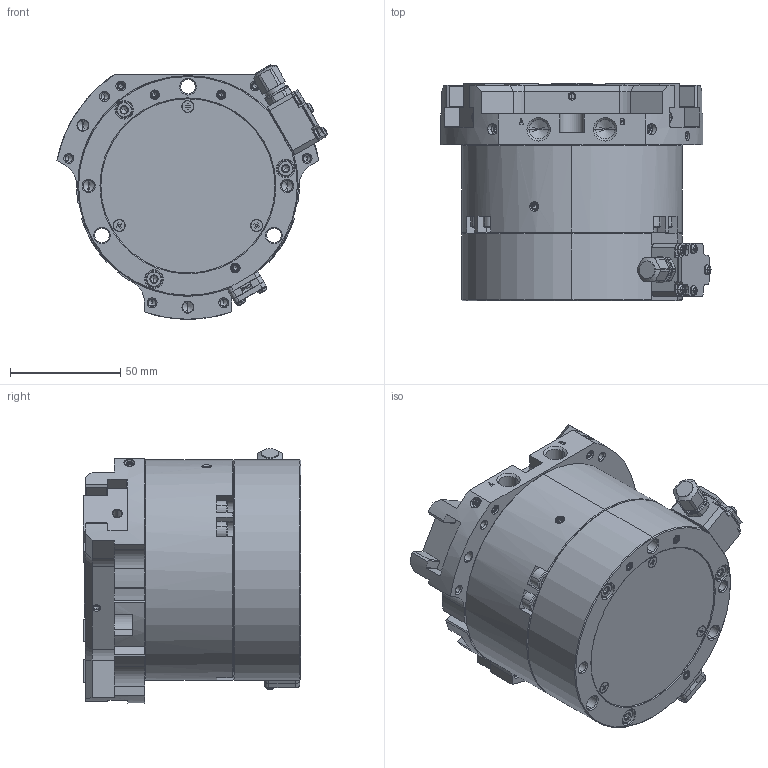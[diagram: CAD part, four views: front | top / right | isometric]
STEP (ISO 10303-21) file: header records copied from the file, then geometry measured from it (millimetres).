
FILE_DESCRIPTION (( 'STEP AP214' ), '1' );
FILE_NAME ('NTS311S-OC.STEP', '2026-03-27T04:42:51', ( '' ), ( '' ), 'SwSTEP 2.0', 'SolidWorks 2022', '' );
FILE_SCHEMA (( 'AUTOMOTIVE_DESIGN' ));
Length unit declared in the file: millimetre
Products named in the file (26): SILENCER COVER A^HP-NTS311S; CAPCON^HP-NTS311S; BOLT2^HP-NTS311S; SCREW5^HP-NTS311S; SCREW4^HP-NTS311S; COVER^HP-NTS311S; CONNECTOR^HP-NTS311S; SCREW2^HP-NTS311S; SET SCREW1^HP-NTS311S; CONNECTOR COVER^HP-NTS311S; BOLT1^HP-NTS311S; SET SCREW2^HP-NTS311S; REAR BODY^HP-NTS311S; BODY^HP-NTS311S_NTS311S(刻印); SCREW3^HP-NTS311S; SILENCER COVER B^HP-NTS311S; SENSOR COVER^HP-NTS311S; SILENCER COVER C^HP-NTS311S; SHEET GASKET A^HP-NTS311S; SCREW1^HP-NTS311S; SILENSCER^HP-NTS311S; SENSOR CASE^HP-NTS311S; NTS311S-OC; SHEET GASKET B^HP-NTS311S; WASHER^HP-NTS311S; MASTER JAW^HP-NTS311S
Assembly tree (52 placements, depth 2):
  NTS311S-OC
    BODY^HP-NTS311S_NTS311S(刻印)
    MASTER JAW^HP-NTS311S  x3
    COVER^HP-NTS311S
    REAR BODY^HP-NTS311S
    SENSOR CASE^HP-NTS311S
    SENSOR COVER^HP-NTS311S
    CONNECTOR^HP-NTS311S
    CONNECTOR COVER^HP-NTS311S
    SHEET GASKET A^HP-NTS311S
    SILENCER COVER A^HP-NTS311S
    SILENCER COVER B^HP-NTS311S
    SILENCER COVER C^HP-NTS311S
    SHEET GASKET B^HP-NTS311S
    BOLT1^HP-NTS311S  x6
    BOLT2^HP-NTS311S  x3
    SCREW1^HP-NTS311S  x3
    SCREW2^HP-NTS311S  x3
    SCREW3^HP-NTS311S  x2
    SCREW4^HP-NTS311S  x4
    SCREW5^HP-NTS311S  x3
    SET SCREW1^HP-NTS311S
    SET SCREW2^HP-NTS311S  x9
    SILENSCER^HP-NTS311S
    CAPCON^HP-NTS311S
    WASHER^HP-NTS311S
Bounding box: 122.49 x 98.7 x 115.44 mm (x, y, z)
Volume: 742446.9 mm3; surface area: 153711.8 mm2
Topology: 52 solids, 52 shells, 3095 faces, 8113 edges, 5154 vertices
Faces by surface type: plane 1820, cone 555, cylinder 539, bspline 179, torus 2
Entity records: 84187 total; most frequent: CARTESIAN_POINT 21714, ORIENTED_EDGE 12870, DIRECTION 11722, EDGE_CURVE 6435, LINE 4824, VECTOR 4824, VERTEX_POINT 4163, AXIS2_PLACEMENT_3D 3449
